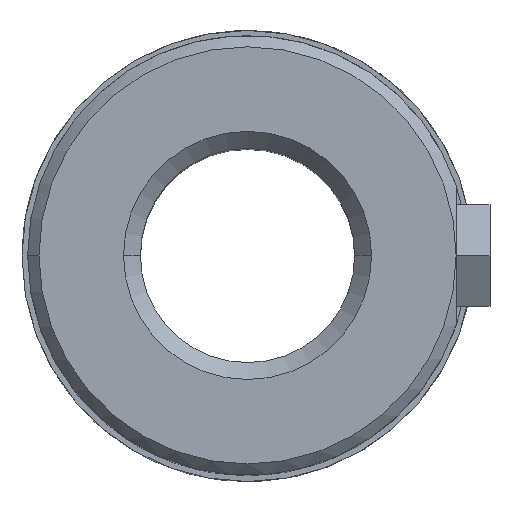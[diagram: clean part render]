
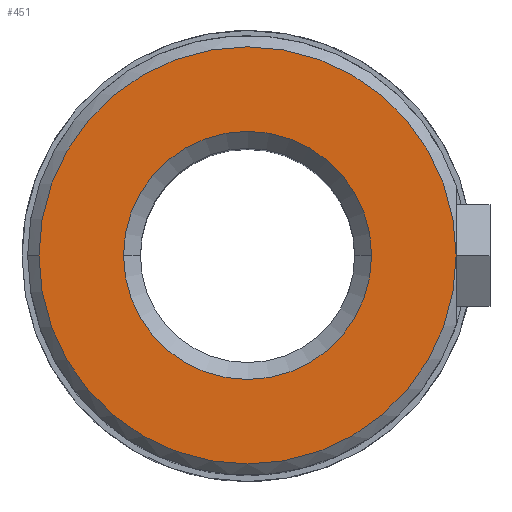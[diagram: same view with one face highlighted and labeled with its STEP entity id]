
A CAD part, top view. The second image highlights one B-rep face of the part: STEP entity #451.
In plain terms, the highlighted planar face has unit normal (0, 0, 1).
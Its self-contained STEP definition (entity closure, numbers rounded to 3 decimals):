
#333=CARTESIAN_POINT('Axis2P3D Location',(0.,0.,36.)) ;
#337=CARTESIAN_POINT('Vertex',(11.,0.,36.)) ;
#339=CARTESIAN_POINT('Vertex',(-11.,0.,36.)) ;
#395=CARTESIAN_POINT('Axis2P3D Location',(0.,0.,36.)) ;
#424=CARTESIAN_POINT('Axis2P3D Location',(11.,0.,36.)) ;
#429=CARTESIAN_POINT('Axis2P3D Location',(0.,0.,36.)) ;
#433=CARTESIAN_POINT('Vertex',(18.5,0.,36.)) ;
#435=CARTESIAN_POINT('Vertex',(-18.5,0.,36.)) ;
#438=CARTESIAN_POINT('Axis2P3D Location',(0.,0.,36.)) ;
#334=DIRECTION('Axis2P3D Direction',(0.,-0.,1.)) ;
#396=DIRECTION('Axis2P3D Direction',(0.,-0.,1.)) ;
#425=DIRECTION('Axis2P3D Direction',(0.,-0.,1.)) ;
#426=DIRECTION('Axis2P3D XDirection',(1.,0.,0.)) ;
#430=DIRECTION('Axis2P3D Direction',(0.,-0.,1.)) ;
#439=DIRECTION('Axis2P3D Direction',(0.,-0.,1.)) ;
#335=AXIS2_PLACEMENT_3D('Circle Axis2P3D',#333,#334,$) ;
#397=AXIS2_PLACEMENT_3D('Circle Axis2P3D',#395,#396,$) ;
#427=AXIS2_PLACEMENT_3D('Plane Axis2P3D',#424,#425,#426) ;
#431=AXIS2_PLACEMENT_3D('Circle Axis2P3D',#429,#430,$) ;
#440=AXIS2_PLACEMENT_3D('Circle Axis2P3D',#438,#439,$) ;
#444=ORIENTED_EDGE('',*,*,#437,.T.) ;
#445=ORIENTED_EDGE('',*,*,#442,.T.) ;
#448=ORIENTED_EDGE('',*,*,#399,.F.) ;
#449=ORIENTED_EDGE('',*,*,#341,.F.) ;
#450=FACE_BOUND('',#447,.T.) ;
#451=ADVANCED_FACE('742-19',(#446,#450),#428,.T.) ;
#336=CIRCLE('generated circle',#335,11.) ;
#398=CIRCLE('generated circle',#397,11.) ;
#432=CIRCLE('generated circle',#431,18.5) ;
#441=CIRCLE('generated circle',#440,18.5) ;
#341=EDGE_CURVE('',#338,#340,#336,.T.) ;
#399=EDGE_CURVE('',#340,#338,#398,.T.) ;
#437=EDGE_CURVE('',#434,#436,#432,.T.) ;
#442=EDGE_CURVE('',#436,#434,#441,.T.) ;
#443=EDGE_LOOP('',(#444,#445)) ;
#447=EDGE_LOOP('',(#448,#449)) ;
#446=FACE_OUTER_BOUND('',#443,.T.) ;
#428=PLANE('Plane',#427) ;
#338=VERTEX_POINT('',#337) ;
#340=VERTEX_POINT('',#339) ;
#434=VERTEX_POINT('',#433) ;
#436=VERTEX_POINT('',#435) ;
